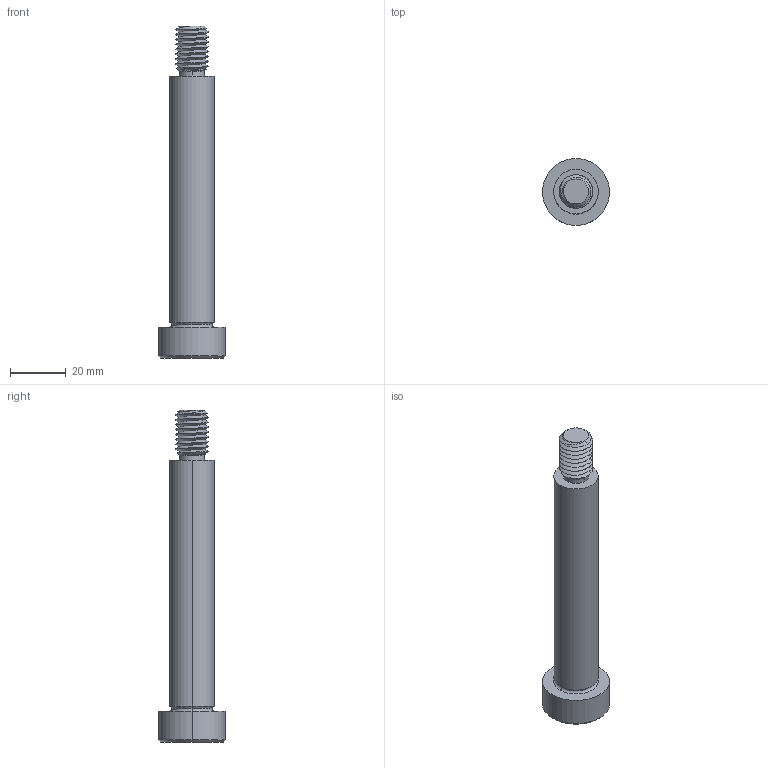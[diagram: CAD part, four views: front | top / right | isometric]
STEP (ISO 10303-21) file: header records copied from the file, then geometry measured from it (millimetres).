
FILE_DESCRIPTION (( 'STEP AP203' ), '1' );
FILE_NAME ('P0130.160-090-B2.step', '2021-11-09T22:19:39', ( '' ), ( '' ), 'SwSTEP 2.0', 'SolidWorks 2019', '' );
FILE_SCHEMA (( 'CONFIG_CONTROL_DESIGN' ));
Length unit declared in the file: millimetre
Products named in the file (1): P0130.160-090-B2
Bounding box: 24 x 24 x 119 mm (x, y, z)
Volume: 24001.2 mm3; surface area: 7567 mm2
Topology: 1 solids, 1 shells, 59 faces, 139 edges, 83 vertices
Faces by surface type: cylinder 22, plane 16, cone 15, torus 4, bspline 2
Entity records: 5164 total; most frequent: CARTESIAN_POINT 3839, ORIENTED_EDGE 274, DIRECTION 244, EDGE_CURVE 137, AXIS2_PLACEMENT_3D 98, VERTEX_POINT 83, EDGE_LOOP 62, FACE_OUTER_BOUND 59
